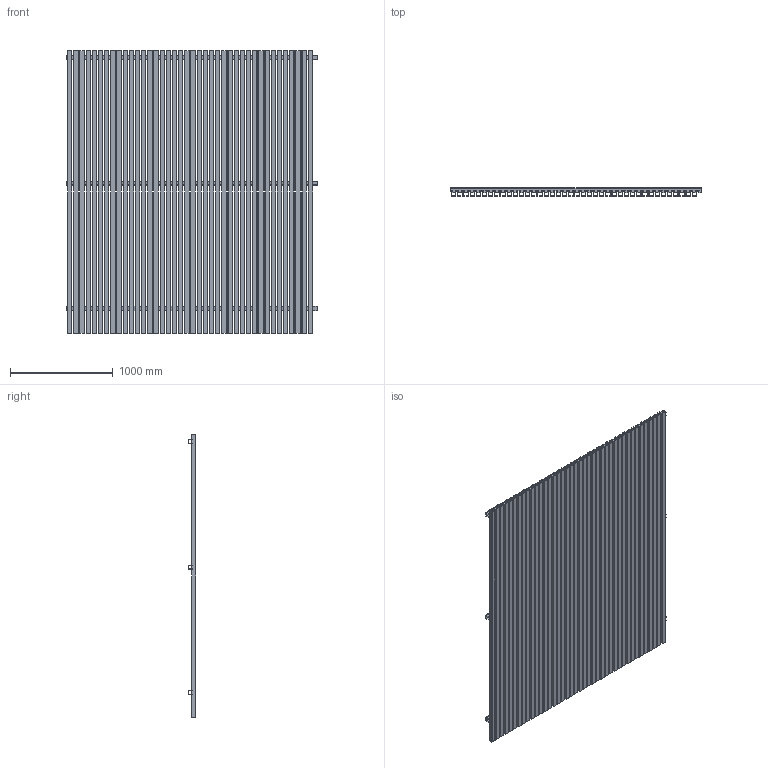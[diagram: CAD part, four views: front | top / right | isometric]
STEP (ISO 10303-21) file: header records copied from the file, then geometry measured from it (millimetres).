
FILE_DESCRIPTION(/* description */ (''),/* implementation_level */ '2;1');
FILE_NAME(/* name */ 'SBC FIXED PITCH TYPE WIDE.stp',/* time_stamp */ '2024-03-01T14:24:38-06:00',/* author */ ('AutoCAD Machine'),/* organization */ (''),/* preprocessor_version */ 'ST-DEVELOPER v20',/* originating_system */ 'Autodesk Inventor 2024',/* authorisation */ '');
FILE_SCHEMA (('AUTOMOTIVE_DESIGN { 1 0 10303 214 3 1 1 }'));
Length unit declared in the file: inch
Products named in the file (3): SBC FIXED PITCH TYPE WIDE; SBC baffle WIDE; baffle_carrier WIDE
Assembly tree (43 placements, depth 2):
  SBC FIXED PITCH TYPE WIDE
    SBC baffle WIDE  x40
    baffle_carrier WIDE  x3
Bounding box: 2438.4 x 76.02 x 2743.2 mm (x, y, z)
Volume: 9480644.4 mm3; surface area: 29345670.7 mm2
Topology: 43 solids, 43 shells, 4152 faces, 12198 edges, 8132 vertices
Faces by surface type: plane 3506, cylinder 646
Full cylindrical faces by diameter (mm): 1.587 x486
Entity records: 39675 total; most frequent: CARTESIAN_POINT 6998, ORIENTED_EDGE 6948, DIRECTION 6222, EDGE_CURVE 3474, LINE 3142, VECTOR 3142, VERTEX_POINT 2316, AXIS2_PLACEMENT_3D 1540
